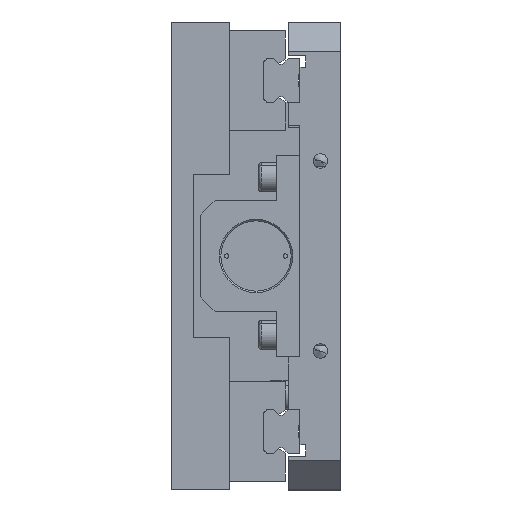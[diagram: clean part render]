
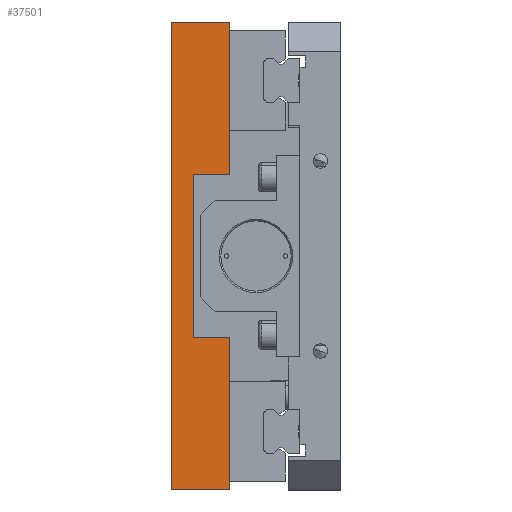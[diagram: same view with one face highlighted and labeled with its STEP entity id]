
A CAD part, left-side view. The second image highlights one B-rep face of the part: STEP entity #37501.
In plain terms, the highlighted planar face has unit normal (-1, 0, 0).
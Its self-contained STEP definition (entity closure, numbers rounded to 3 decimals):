
#223 = ORIENTED_EDGE ( 'NONE', *, *, #31012, .F. ) ;
#225 = ORIENTED_EDGE ( 'NONE', *, *, #31092, .T. ) ;
#227 = ORIENTED_EDGE ( 'NONE', *, *, #31352, .T. ) ;
#229 = ORIENTED_EDGE ( 'NONE', *, *, #31289, .F. ) ;
#231 = ORIENTED_EDGE ( 'NONE', *, *, #31296, .F. ) ;
#233 = ORIENTED_EDGE ( 'NONE', *, *, #31290, .T. ) ;
#235 = ORIENTED_EDGE ( 'NONE', *, *, #31294, .T. ) ;
#237 = ORIENTED_EDGE ( 'NONE', *, *, #31291, .F. ) ;
#4361 = CARTESIAN_POINT ( 'NONE',  ( 1.5, 38., -80. ) ) ;
#4369 = DIRECTION ( 'NONE',  ( 0., 0., 1. ) ) ;
#4931 = EDGE_LOOP ( 'NONE', ( #237, #235, #233, #231, #229, #227, #225, #223 ) ) ;
#5571 = CARTESIAN_POINT ( 'NONE',  ( 1.5, 58., -80. ) ) ;
#5587 = DIRECTION ( 'NONE',  ( 0., 0., 1. ) ) ;
#5605 = CARTESIAN_POINT ( 'NONE',  ( 1.5, 38., -80. ) ) ;
#5608 = DIRECTION ( 'NONE',  ( 0., 0., 1. ) ) ;
#5610 = CARTESIAN_POINT ( 'NONE',  ( 1.5, 50.5, -28. ) ) ;
#5612 = DIRECTION ( 'NONE',  ( 0., 0., -1. ) ) ;
#5622 = CARTESIAN_POINT ( 'NONE',  ( 1.5, 50.5, 28. ) ) ;
#5625 = DIRECTION ( 'NONE',  ( 0., -1., 0. ) ) ;
#5632 = CARTESIAN_POINT ( 'NONE',  ( 1.5, 58., 80. ) ) ;
#5634 = DIRECTION ( 'NONE',  ( 0., -1., 0. ) ) ;
#5969 = CARTESIAN_POINT ( 'NONE',  ( 1.5, 58., -80. ) ) ;
#5971 = DIRECTION ( 'NONE',  ( 0., -1., 0. ) ) ;
#9028 = LINE ( 'NONE', #24894, #9035 ) ;
#9035 = VECTOR ( 'NONE', #24890, 1000. ) ;
#9252 = LINE ( 'NONE', #4361, #9261 ) ;
#9261 = VECTOR ( 'NONE', #4369, 1000. ) ;
#9726 = LINE ( 'NONE', #5571, #9730 ) ;
#9728 = LINE ( 'NONE', #5605, #9733 ) ;
#9730 = VECTOR ( 'NONE', #5587, 1000. ) ;
#9732 = LINE ( 'NONE', #5610, #9738 ) ;
#9733 = VECTOR ( 'NONE', #5608, 1000. ) ;
#9738 = VECTOR ( 'NONE', #5612, 1000. ) ;
#9743 = LINE ( 'NONE', #5622, #9749 ) ;
#9749 = VECTOR ( 'NONE', #5625, 1000. ) ;
#9751 = LINE ( 'NONE', #5632, #9756 ) ;
#9756 = VECTOR ( 'NONE', #5634, 1000. ) ;
#9885 = LINE ( 'NONE', #5969, #9887 ) ;
#9887 = VECTOR ( 'NONE', #5971, 1000. ) ;
#19476 = FACE_OUTER_BOUND ( 'NONE', #4931, .T. ) ;
#20889 = CARTESIAN_POINT ( 'NONE',  ( 1.5, 58., -80. ) ) ;
#20897 = PLANE ( 'NONE',  #21289 ) ;
#20899 = DIRECTION ( 'NONE',  ( 1., 0., 0. ) ) ;
#20900 = DIRECTION ( 'NONE',  ( 0., 0., -1. ) ) ;
#21289 = AXIS2_PLACEMENT_3D ( 'NONE', #20889, #20899, #20900 ) ;
#22932 = CARTESIAN_POINT ( 'NONE',  ( 1.5, 58., 80. ) ) ;
#23029 = CARTESIAN_POINT ( 'NONE',  ( 1.5, 50.5, -28. ) ) ;
#23069 = CARTESIAN_POINT ( 'NONE',  ( 1.5, 58., -80. ) ) ;
#23075 = CARTESIAN_POINT ( 'NONE',  ( 1.5, 50.5, 28. ) ) ;
#23185 = CARTESIAN_POINT ( 'NONE',  ( 1.5, 38., -28. ) ) ;
#23206 = CARTESIAN_POINT ( 'NONE',  ( 1.5, 38., -80. ) ) ;
#23225 = CARTESIAN_POINT ( 'NONE',  ( 1.5, 38., 28. ) ) ;
#23292 = CARTESIAN_POINT ( 'NONE',  ( 1.5, 38., 80. ) ) ;
#24890 = DIRECTION ( 'NONE',  ( 0., -1., 0. ) ) ;
#24894 = CARTESIAN_POINT ( 'NONE',  ( 1.5, 50.5, -28. ) ) ;
#31012 = EDGE_CURVE ( 'NONE', #39082, #39238, #9028, .T. ) ;
#31092 = EDGE_CURVE ( 'NONE', #39259, #39238, #9252, .T. ) ;
#31289 = EDGE_CURVE ( 'NONE', #39122, #38985, #9726, .T. ) ;
#31290 = EDGE_CURVE ( 'NONE', #39278, #39345, #9728, .T. ) ;
#31291 = EDGE_CURVE ( 'NONE', #39128, #39082, #9732, .T. ) ;
#31294 = EDGE_CURVE ( 'NONE', #39128, #39278, #9743, .T. ) ;
#31296 = EDGE_CURVE ( 'NONE', #38985, #39345, #9751, .T. ) ;
#31352 = EDGE_CURVE ( 'NONE', #39122, #39259, #9885, .T. ) ;
#37501 = ADVANCED_FACE ( 'NONE', ( #19476 ), #20897, .F. ) ;
#38985 = VERTEX_POINT ( 'NONE', #22932 ) ;
#39082 = VERTEX_POINT ( 'NONE', #23029 ) ;
#39122 = VERTEX_POINT ( 'NONE', #23069 ) ;
#39128 = VERTEX_POINT ( 'NONE', #23075 ) ;
#39238 = VERTEX_POINT ( 'NONE', #23185 ) ;
#39259 = VERTEX_POINT ( 'NONE', #23206 ) ;
#39278 = VERTEX_POINT ( 'NONE', #23225 ) ;
#39345 = VERTEX_POINT ( 'NONE', #23292 ) ;
